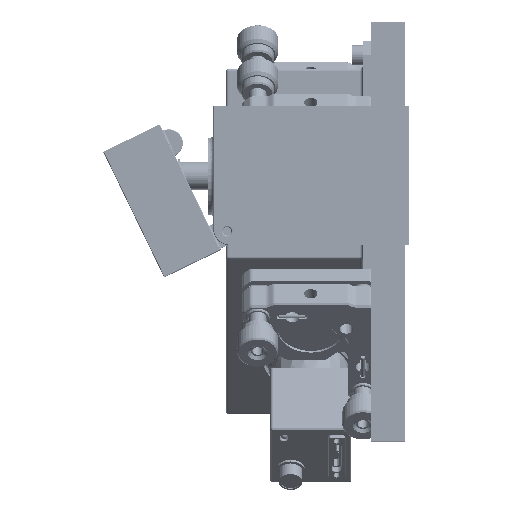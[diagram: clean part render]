
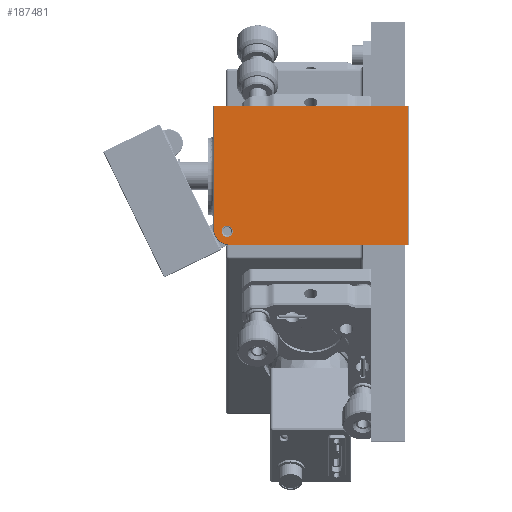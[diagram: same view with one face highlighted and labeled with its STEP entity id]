
A CAD part, top view. The second image highlights one B-rep face of the part: STEP entity #187481.
In plain terms, the highlighted planar face has unit normal (0, 0, 1).
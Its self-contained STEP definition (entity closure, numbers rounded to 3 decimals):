
#1595 = VERTEX_POINT ( 'NONE', #368102 ) ;
#2728 = CARTESIAN_POINT ( 'NONE',  ( -28., -20., 46.665 ) ) ;
#11767 = AXIS2_PLACEMENT_3D ( 'NONE', #89359, #93121, #62230 ) ;
#13534 = CARTESIAN_POINT ( 'NONE',  ( 34.8, 24.8, 46.665 ) ) ;
#14735 = ORIENTED_EDGE ( 'NONE', *, *, #53753, .T. ) ;
#34398 = CARTESIAN_POINT ( 'NONE',  ( 34.8, -24.8, 46.665 ) ) ;
#35436 = CARTESIAN_POINT ( 'NONE',  ( -34.8, 24.8, 46.665 ) ) ;
#38655 = AXIS2_PLACEMENT_3D ( 'NONE', #279015, #248328, #46128 ) ;
#39898 = EDGE_CURVE ( 'NONE', #123675, #1595, #208418, .T. ) ;
#43515 = ORIENTED_EDGE ( 'NONE', *, *, #104521, .T. ) ;
#46128 = DIRECTION ( 'NONE',  ( -1., 0., 0. ) ) ;
#53753 = EDGE_CURVE ( 'NONE', #189974, #123675, #124081, .T. ) ;
#61598 = CARTESIAN_POINT ( 'NONE',  ( -29., -24.8, 46.665 ) ) ;
#62230 = DIRECTION ( 'NONE',  ( -1., 0., 0. ) ) ;
#63040 = FACE_BOUND ( 'NONE', #271520, .T. ) ;
#65932 = CIRCLE ( 'NONE', #11767, 2. ) ;
#81127 = CARTESIAN_POINT ( 'NONE',  ( -32., -20., 46.665 ) ) ;
#81803 = VERTEX_POINT ( 'NONE', #81127 ) ;
#87999 = DIRECTION ( 'NONE',  ( 0., -1., 0. ) ) ;
#89359 = CARTESIAN_POINT ( 'NONE',  ( -30., -20., 46.665 ) ) ;
#91726 = ORIENTED_EDGE ( 'NONE', *, *, #39898, .T. ) ;
#93121 = DIRECTION ( 'NONE',  ( 0., 0., -1. ) ) ;
#94227 = AXIS2_PLACEMENT_3D ( 'NONE', #306903, #304424, #247978 ) ;
#104521 = EDGE_CURVE ( 'NONE', #81803, #250735, #304721, .T. ) ;
#112624 = VERTEX_POINT ( 'NONE', #61598 ) ;
#116862 = EDGE_CURVE ( 'NONE', #112624, #207021, #255586, .T. ) ;
#116973 = ORIENTED_EDGE ( 'NONE', *, *, #136017, .T. ) ;
#118367 = AXIS2_PLACEMENT_3D ( 'NONE', #319698, #289047, #200491 ) ;
#118474 = EDGE_CURVE ( 'NONE', #1595, #112624, #377443, .T. ) ;
#123675 = VERTEX_POINT ( 'NONE', #35436 ) ;
#124081 = LINE ( 'NONE', #245167, #363422 ) ;
#132244 = VECTOR ( 'NONE', #179419, 1000. ) ;
#136017 = EDGE_CURVE ( 'NONE', #207021, #189974, #164440, .T. ) ;
#153073 = VECTOR ( 'NONE', #87999, 1000. ) ;
#164440 = LINE ( 'NONE', #181937, #132244 ) ;
#176742 = CARTESIAN_POINT ( 'NONE',  ( 35., -24.8, 46.665 ) ) ;
#179419 = DIRECTION ( 'NONE',  ( 0., 1., 0. ) ) ;
#181791 = DIRECTION ( 'NONE',  ( 1., 0., 0. ) ) ;
#181937 = CARTESIAN_POINT ( 'NONE',  ( 34.8, 25., 46.665 ) ) ;
#187481 = ADVANCED_FACE ( 'NONE', ( #233467, #63040 ), #346632, .F. ) ;
#189974 = VERTEX_POINT ( 'NONE', #13534 ) ;
#200491 = DIRECTION ( 'NONE',  ( -1., 0., 0. ) ) ;
#207021 = VERTEX_POINT ( 'NONE', #34398 ) ;
#208418 = LINE ( 'NONE', #352718, #153073 ) ;
#233467 = FACE_OUTER_BOUND ( 'NONE', #265679, .T. ) ;
#245167 = CARTESIAN_POINT ( 'NONE',  ( 35., 24.8, 46.665 ) ) ;
#247726 = DIRECTION ( 'NONE',  ( -1., 0., 0. ) ) ;
#247978 = DIRECTION ( 'NONE',  ( -1., 0., 0. ) ) ;
#248328 = DIRECTION ( 'NONE',  ( 0., 0., -1. ) ) ;
#250735 = VERTEX_POINT ( 'NONE', #2728 ) ;
#255586 = LINE ( 'NONE', #176742, #370470 ) ;
#265679 = EDGE_LOOP ( 'NONE', ( #339267, #339549, #116973, #14735, #91726 ) ) ;
#271520 = EDGE_LOOP ( 'NONE', ( #43515, #344435 ) ) ;
#272878 = EDGE_CURVE ( 'NONE', #250735, #81803, #65932, .T. ) ;
#279015 = CARTESIAN_POINT ( 'NONE',  ( -30., -20., 46.665 ) ) ;
#289047 = DIRECTION ( 'NONE',  ( 0., 0., -1. ) ) ;
#304424 = DIRECTION ( 'NONE',  ( 0., 0., 1. ) ) ;
#304721 = CIRCLE ( 'NONE', #38655, 2. ) ;
#306903 = CARTESIAN_POINT ( 'NONE',  ( -29., -19., 46.665 ) ) ;
#319698 = CARTESIAN_POINT ( 'NONE',  ( 35., 25., 46.665 ) ) ;
#339267 = ORIENTED_EDGE ( 'NONE', *, *, #118474, .T. ) ;
#339549 = ORIENTED_EDGE ( 'NONE', *, *, #116862, .T. ) ;
#344435 = ORIENTED_EDGE ( 'NONE', *, *, #272878, .T. ) ;
#346632 = PLANE ( 'NONE',  #118367 ) ;
#352718 = CARTESIAN_POINT ( 'NONE',  ( -34.8, 25., 46.665 ) ) ;
#363422 = VECTOR ( 'NONE', #247726, 1000. ) ;
#368102 = CARTESIAN_POINT ( 'NONE',  ( -34.8, -19., 46.665 ) ) ;
#370470 = VECTOR ( 'NONE', #181791, 1000. ) ;
#377443 = CIRCLE ( 'NONE', #94227, 5.8 ) ;
